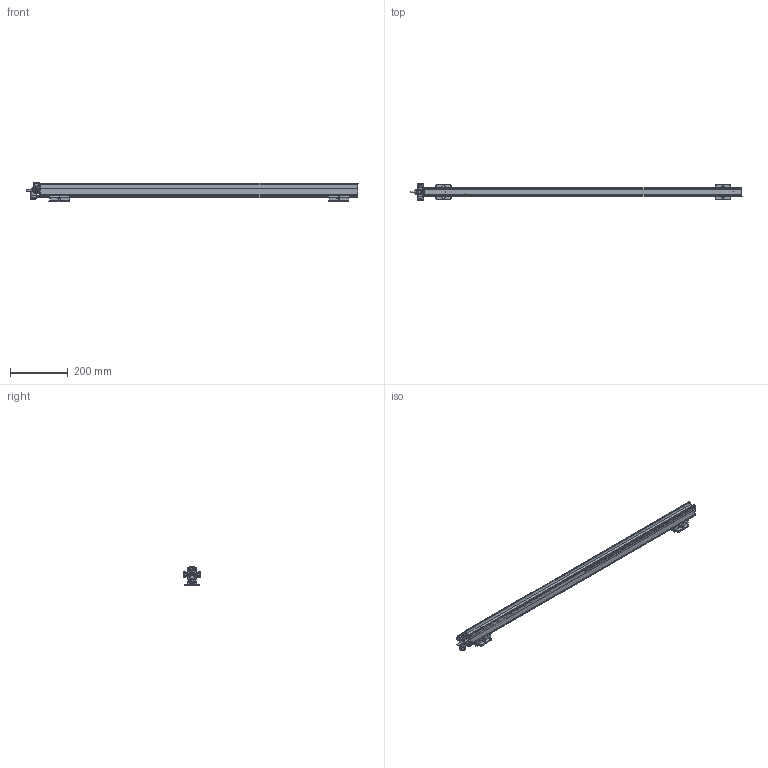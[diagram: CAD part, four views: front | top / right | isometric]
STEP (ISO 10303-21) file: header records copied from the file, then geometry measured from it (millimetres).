
FILE_DESCRIPTION(/* description */ (''),/* implementation_level */ '2;1');
FILE_NAME(/* name */ 'PERFORMAXEASYEX_0930_3D_GB',/* time_stamp */ '2017-05-31T09:47:30+02:00',/* author */ (''),/* organization */ (''),/* preprocessor_version */ 'ST-DEVELOPER v15.7',/* originating_system */ 'HiCAD 2015 2002.1 Build 408',/* authorisation */ '');
FILE_SCHEMA (('AUTOMOTIVE_DESIGN { 1 0 10303 214 1 1 1 1 }'));
Length unit declared in the file: millimetre
Products named in the file (57): Root; -_Performax (IQ) Easy Ex 0930 eff (Speed); -_LED; -_PROFILE; -_POTTING; -_CAP DE; -_CAP CE; -_CABLE; -_PIN; -_COVER; 4532000100_Mounting bracket bars; -_Side piece; -_Slide piece; -_Bracket small; DIN 13-M3; DIN 76-M3; 2047507823_PE connection; DIN 916-M4x20-45H_Set screws; GEWINDE; ISO 8738-4-160 HV_Washers for studs; ISO 4032-M4-10_Hexagon nuts; DIN 127-A 4-FSt_Washers; 2047493713_Cable exits; -_Exit K; -_Clip; -_Gland body; -_Exit S; -_Exit Q; -_Washer ø20mm, 5mm thick for corr. conduit (exit
 Q); -_Exit I; -_Exit U; -_Exit A; Thread_2
Assembly tree (56 placements, depth 5):
  Root
    -_Performax (IQ) Easy Ex 0930 eff (Speed)
      -_LED
      -_PROFILE
      -_POTTING
      -_CAP DE
      -_CAP CE
      -_CABLE
      -_PIN
      -_PIN
      -_COVER
      4532000100_Mounting bracket bars
        -_Side piece
        -_Side piece
        -_Slide piece
        -_Bracket small
          DIN 13-M3
          DIN 13-M3
          DIN 76-M3
          DIN 76-M3
      4532000100_Mounting bracket bars
        -_Side piece
        -_Side piece
        -_Slide piece
        -_Bracket small
          DIN 13-M3
          DIN 13-M3
          DIN 76-M3
          DIN 76-M3
      2047507823_PE connection
        DIN 916-M4x20-45H_Set screws
          GEWINDE
        ISO 8738-4-160 HV_Washers for studs
        ISO 4032-M4-10_Hexagon nuts
          GEWINDE
        DIN 127-A 4-FSt_Washers
        ISO 4032-M4-10_Hexagon nuts
          GEWINDE
      2047493713_Cable exits
        -_Exit K
          -_Clip
          -_Gland body
        -_Exit S
          -_Clip
          -_Gland body
        -_Exit Q
          -_Clip
          -_Washer ø20mm, 5mm thick for corr. conduit (exit
 Q)
          -_Gland body
        -_Exit I
          -_Clip
          -_Gland body
        -_Exit U
          -_Clip
          -_Gland body
        -_Exit A
          Thread_2
Bounding box: 1152.4 x 58.79 x 68.9 mm (x, y, z)
Volume: 1385351.3 mm3; surface area: 411056.8 mm2
Topology: 47 solids, 53 shells, 1941 faces, 5010 edges, 3074 vertices
Faces by surface type: plane 913, cylinder 739, torus 91, sphere 87, bspline 64, cone 47
Full cylindrical faces by diameter (mm): 2.387 x8, 3 x16, 3.141 x4, 4 x5, 4.3 x1, 5.4 x2, 5.5 x10, 8 x2, 11.3 x4, 12.5 x4, 13 x1, 14.6 x5, 15.1 x5, 18.4 x4, 20 x7, 20.2 x4
Entity records: 107117 total; most frequent: CARTESIAN_POINT 22020, DIRECTION 10074, PRESENTATION_STYLE_ASSIGNMENT 9495, OVER_RIDING_STYLED_ITEM 9449, DRAUGHTING_PRE_DEFINED_CURVE_FONT 9436, CURVE_STYLE 9436, ORIENTED_EDGE 9436, EDGE_CURVE 4718
